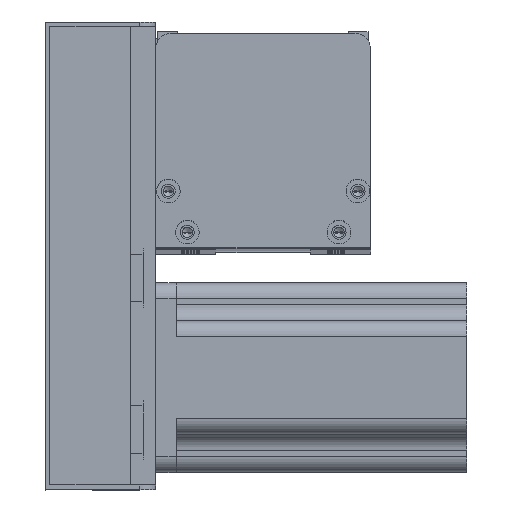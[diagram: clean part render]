
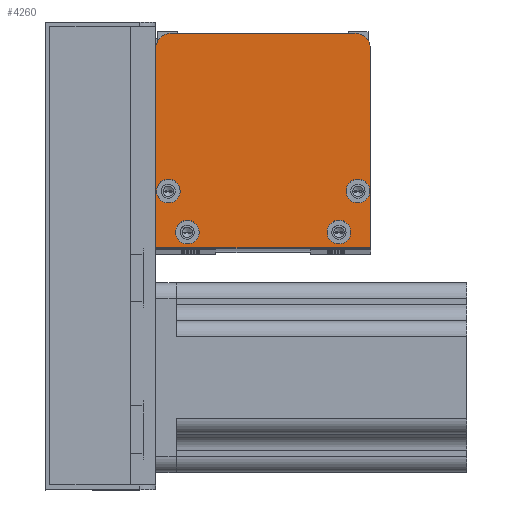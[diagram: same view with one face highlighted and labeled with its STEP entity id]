
A CAD part, top view. The second image highlights one B-rep face of the part: STEP entity #4260.
In plain terms, the highlighted planar face has unit normal (0, 0, 1) as drawn and (0, 0, -1) by its records, which use the part's own axes.
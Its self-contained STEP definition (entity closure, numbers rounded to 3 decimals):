
#429 = CARTESIAN_POINT ( 'NONE',  ( 5., 68., 0. ) ) ;
#551 = CARTESIAN_POINT ( 'NONE',  ( 68., 0., 0. ) ) ;
#949 = VERTEX_POINT ( 'NONE', #20253 ) ;
#1018 = VERTEX_POINT ( 'NONE', #22909 ) ;
#1403 = VECTOR ( 'NONE', #16380, 1000. ) ;
#1844 = DIRECTION ( 'NONE',  ( -1., 0., 0. ) ) ;
#1934 = CARTESIAN_POINT ( 'NONE',  ( 58., 5., 0. ) ) ;
#1952 = EDGE_CURVE ( 'NONE', #11436, #949, #14206, .T. ) ;
#2023 = DIRECTION ( 'NONE',  ( 0., 0., -1. ) ) ;
#2124 = FACE_BOUND ( 'NONE', #16260, .T. ) ;
#3407 = VECTOR ( 'NONE', #4702, 1000. ) ;
#3447 = ORIENTED_EDGE ( 'NONE', *, *, #10634, .F. ) ;
#4106 = CARTESIAN_POINT ( 'NONE',  ( 68., 0., 0. ) ) ;
#4260 = ADVANCED_FACE ( 'NONE', ( #2124, #26917, #5319, #26567, #9914 ), #21229, .F. ) ;
#4596 = VERTEX_POINT ( 'NONE', #4106 ) ;
#4702 = DIRECTION ( 'NONE',  ( -1., 0., 0. ) ) ;
#5155 = LINE ( 'NONE', #11415, #3407 ) ;
#5233 = CARTESIAN_POINT ( 'NONE',  ( 10., 5., 0. ) ) ;
#5319 = FACE_BOUND ( 'NONE', #22774, .T. ) ;
#5697 = CARTESIAN_POINT ( 'NONE',  ( 64., 18., 0. ) ) ;
#5774 = ORIENTED_EDGE ( 'NONE', *, *, #28558, .F. ) ;
#5857 = DIRECTION ( 'NONE',  ( -1., 0., 0. ) ) ;
#6277 = ORIENTED_EDGE ( 'NONE', *, *, #9015, .F. ) ;
#6861 = DIRECTION ( 'NONE',  ( 0., 0., -1. ) ) ;
#6931 = ORIENTED_EDGE ( 'NONE', *, *, #12535, .F. ) ;
#6966 = CIRCLE ( 'NONE', #24122, 3.75 ) ;
#7154 = EDGE_CURVE ( 'NONE', #19086, #20349, #6966, .T. ) ;
#7166 = DIRECTION ( 'NONE',  ( 1., 0., 0. ) ) ;
#7373 = ORIENTED_EDGE ( 'NONE', *, *, #7154, .F. ) ;
#7414 = DIRECTION ( 'NONE',  ( 0., 0., -1. ) ) ;
#7610 = DIRECTION ( 'NONE',  ( -1., 0., 0. ) ) ;
#7750 = CARTESIAN_POINT ( 'NONE',  ( 68., 63., 0. ) ) ;
#8145 = EDGE_CURVE ( 'NONE', #1018, #4596, #26036, .T. ) ;
#8246 = VERTEX_POINT ( 'NONE', #16140 ) ;
#8344 = CIRCLE ( 'NONE', #15228, 3.75 ) ;
#8411 = AXIS2_PLACEMENT_3D ( 'NONE', #5233, #23630, #16411 ) ;
#8834 = VECTOR ( 'NONE', #20487, 1000. ) ;
#9015 = EDGE_CURVE ( 'NONE', #20349, #19086, #27738, .T. ) ;
#9794 = VERTEX_POINT ( 'NONE', #19649 ) ;
#9914 = FACE_OUTER_BOUND ( 'NONE', #23619, .T. ) ;
#10100 = VERTEX_POINT ( 'NONE', #429 ) ;
#10102 = CARTESIAN_POINT ( 'NONE',  ( 67.75, 18., 0. ) ) ;
#10104 = DIRECTION ( 'NONE',  ( 0., 0., -1. ) ) ;
#10410 = VERTEX_POINT ( 'NONE', #17238 ) ;
#10453 = CARTESIAN_POINT ( 'NONE',  ( 6.25, 5., 0. ) ) ;
#10634 = EDGE_CURVE ( 'NONE', #4596, #28848, #14394, .T. ) ;
#10762 = CARTESIAN_POINT ( 'NONE',  ( 54.25, 5., 0. ) ) ;
#11292 = CIRCLE ( 'NONE', #14212, 3.75 ) ;
#11415 = CARTESIAN_POINT ( 'NONE',  ( 68., 68., 0. ) ) ;
#11436 = VERTEX_POINT ( 'NONE', #10102 ) ;
#11552 = CARTESIAN_POINT ( 'NONE',  ( 0.25, 18., 0. ) ) ;
#12205 = CARTESIAN_POINT ( 'NONE',  ( 0., 0., 0. ) ) ;
#12398 = EDGE_CURVE ( 'NONE', #9794, #10100, #5155, .T. ) ;
#12478 = ORIENTED_EDGE ( 'NONE', *, *, #16033, .F. ) ;
#12535 = EDGE_CURVE ( 'NONE', #949, #11436, #8344, .T. ) ;
#12939 = DIRECTION ( 'NONE',  ( 1., 0., 0. ) ) ;
#12980 = EDGE_LOOP ( 'NONE', ( #5774, #22527 ) ) ;
#13632 = ORIENTED_EDGE ( 'NONE', *, *, #18051, .T. ) ;
#13934 = CARTESIAN_POINT ( 'NONE',  ( 0., 0., 0. ) ) ;
#14194 = CIRCLE ( 'NONE', #23255, 5. ) ;
#14206 = CIRCLE ( 'NONE', #24204, 3.75 ) ;
#14212 = AXIS2_PLACEMENT_3D ( 'NONE', #22507, #26857, #22318 ) ;
#14357 = VERTEX_POINT ( 'NONE', #25468 ) ;
#14394 = LINE ( 'NONE', #551, #1403 ) ;
#14530 = CARTESIAN_POINT ( 'NONE',  ( 10., 5., 0. ) ) ;
#14580 = DIRECTION ( 'NONE',  ( 0., 0., -1. ) ) ;
#14853 = LINE ( 'NONE', #13934, #8834 ) ;
#15100 = DIRECTION ( 'NONE',  ( 0., 0., -1. ) ) ;
#15107 = EDGE_CURVE ( 'NONE', #8246, #10100, #14194, .T. ) ;
#15124 = CARTESIAN_POINT ( 'NONE',  ( 68., 0., 0. ) ) ;
#15157 = VERTEX_POINT ( 'NONE', #10762 ) ;
#15228 = AXIS2_PLACEMENT_3D ( 'NONE', #16159, #27537, #20736 ) ;
#16033 = EDGE_CURVE ( 'NONE', #10410, #22963, #24125, .T. ) ;
#16140 = CARTESIAN_POINT ( 'NONE',  ( 0., 63., 0. ) ) ;
#16159 = CARTESIAN_POINT ( 'NONE',  ( 64., 18., 0. ) ) ;
#16260 = EDGE_LOOP ( 'NONE', ( #6931, #26131 ) ) ;
#16353 = CIRCLE ( 'NONE', #25866, 3.75 ) ;
#16380 = DIRECTION ( 'NONE',  ( 0., 1., 0. ) ) ;
#16411 = DIRECTION ( 'NONE',  ( -1., 0., 0. ) ) ;
#16458 = EDGE_LOOP ( 'NONE', ( #28984, #12478 ) ) ;
#17238 = CARTESIAN_POINT ( 'NONE',  ( 7.75, 18., 0. ) ) ;
#18051 = EDGE_CURVE ( 'NONE', #9794, #28848, #19696, .T. ) ;
#18135 = AXIS2_PLACEMENT_3D ( 'NONE', #21583, #10104, #5857 ) ;
#18819 = AXIS2_PLACEMENT_3D ( 'NONE', #1934, #2023, #1844 ) ;
#18889 = AXIS2_PLACEMENT_3D ( 'NONE', #12205, #28037, #25574 ) ;
#19086 = VERTEX_POINT ( 'NONE', #26772 ) ;
#19184 = DIRECTION ( 'NONE',  ( 0., 0., -1. ) ) ;
#19649 = CARTESIAN_POINT ( 'NONE',  ( 63., 68., 0. ) ) ;
#19696 = CIRCLE ( 'NONE', #21046, 5. ) ;
#20253 = CARTESIAN_POINT ( 'NONE',  ( 60.25, 18., 0. ) ) ;
#20349 = VERTEX_POINT ( 'NONE', #10453 ) ;
#20435 = CARTESIAN_POINT ( 'NONE',  ( 63., 63., 0. ) ) ;
#20487 = DIRECTION ( 'NONE',  ( 0., -1., 0. ) ) ;
#20693 = EDGE_CURVE ( 'NONE', #22963, #10410, #16353, .T. ) ;
#20725 = VECTOR ( 'NONE', #12939, 1000. ) ;
#20736 = DIRECTION ( 'NONE',  ( -1., 0., 0. ) ) ;
#21046 = AXIS2_PLACEMENT_3D ( 'NONE', #20435, #6861, #7166 ) ;
#21229 = PLANE ( 'NONE',  #18889 ) ;
#21335 = DIRECTION ( 'NONE',  ( -1., 0., 0. ) ) ;
#21487 = EDGE_CURVE ( 'NONE', #14357, #15157, #29047, .T. ) ;
#21583 = CARTESIAN_POINT ( 'NONE',  ( 4., 18., 0. ) ) ;
#22043 = DIRECTION ( 'NONE',  ( 1., 0., 0. ) ) ;
#22318 = DIRECTION ( 'NONE',  ( -1., 0., 0. ) ) ;
#22507 = CARTESIAN_POINT ( 'NONE',  ( 58., 5., 0. ) ) ;
#22527 = ORIENTED_EDGE ( 'NONE', *, *, #21487, .F. ) ;
#22569 = ORIENTED_EDGE ( 'NONE', *, *, #15107, .T. ) ;
#22774 = EDGE_LOOP ( 'NONE', ( #6277, #7373 ) ) ;
#22909 = CARTESIAN_POINT ( 'NONE',  ( 0., 0., 0. ) ) ;
#22963 = VERTEX_POINT ( 'NONE', #11552 ) ;
#22966 = EDGE_CURVE ( 'NONE', #8246, #1018, #14853, .T. ) ;
#23255 = AXIS2_PLACEMENT_3D ( 'NONE', #26290, #15100, #22043 ) ;
#23356 = DIRECTION ( 'NONE',  ( -1., 0., 0. ) ) ;
#23619 = EDGE_LOOP ( 'NONE', ( #28637, #22569, #25061, #13632, #3447, #24377 ) ) ;
#23630 = DIRECTION ( 'NONE',  ( 0., 0., -1. ) ) ;
#24122 = AXIS2_PLACEMENT_3D ( 'NONE', #14530, #19184, #23356 ) ;
#24125 = CIRCLE ( 'NONE', #18135, 3.75 ) ;
#24204 = AXIS2_PLACEMENT_3D ( 'NONE', #5697, #14580, #21335 ) ;
#24377 = ORIENTED_EDGE ( 'NONE', *, *, #8145, .F. ) ;
#25061 = ORIENTED_EDGE ( 'NONE', *, *, #12398, .F. ) ;
#25468 = CARTESIAN_POINT ( 'NONE',  ( 61.75, 5., 0. ) ) ;
#25574 = DIRECTION ( 'NONE',  ( 1., 0., 0. ) ) ;
#25721 = CARTESIAN_POINT ( 'NONE',  ( 4., 18., 0. ) ) ;
#25866 = AXIS2_PLACEMENT_3D ( 'NONE', #25721, #7414, #7610 ) ;
#26036 = LINE ( 'NONE', #15124, #20725 ) ;
#26131 = ORIENTED_EDGE ( 'NONE', *, *, #1952, .F. ) ;
#26290 = CARTESIAN_POINT ( 'NONE',  ( 5., 63., 0. ) ) ;
#26567 = FACE_BOUND ( 'NONE', #12980, .T. ) ;
#26772 = CARTESIAN_POINT ( 'NONE',  ( 13.75, 5., 0. ) ) ;
#26857 = DIRECTION ( 'NONE',  ( 0., 0., -1. ) ) ;
#26917 = FACE_BOUND ( 'NONE', #16458, .T. ) ;
#27537 = DIRECTION ( 'NONE',  ( 0., 0., -1. ) ) ;
#27738 = CIRCLE ( 'NONE', #8411, 3.75 ) ;
#28037 = DIRECTION ( 'NONE',  ( 0., 0., 1. ) ) ;
#28558 = EDGE_CURVE ( 'NONE', #15157, #14357, #11292, .T. ) ;
#28637 = ORIENTED_EDGE ( 'NONE', *, *, #22966, .F. ) ;
#28848 = VERTEX_POINT ( 'NONE', #7750 ) ;
#28984 = ORIENTED_EDGE ( 'NONE', *, *, #20693, .F. ) ;
#29047 = CIRCLE ( 'NONE', #18819, 3.75 ) ;
